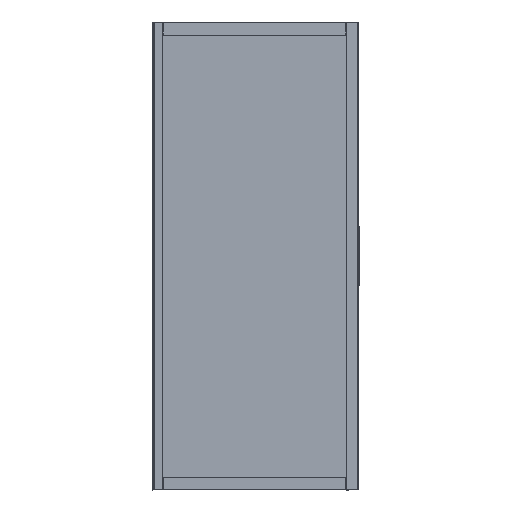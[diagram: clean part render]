
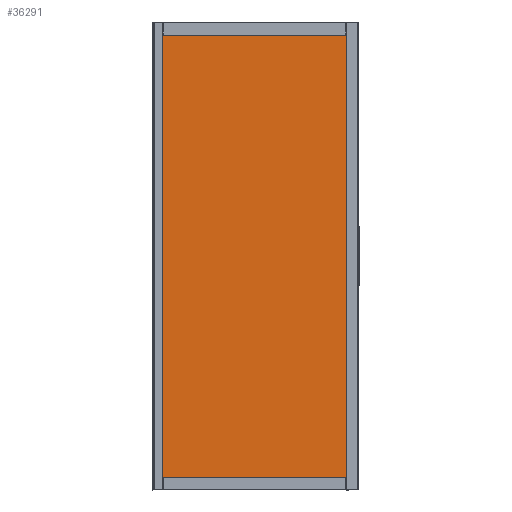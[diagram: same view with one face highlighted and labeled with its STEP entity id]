
A CAD part, front view. The second image highlights one B-rep face of the part: STEP entity #36291.
In plain terms, the highlighted planar face has unit normal (0, -1, 0).
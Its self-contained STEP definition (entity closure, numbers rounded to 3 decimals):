
#1799=LINE($,#54927,#5004);
#2004=LINE($,#55556,#5209);
#2010=LINE($,#55573,#5215);
#2037=LINE($,#55640,#5242);
#2054=LINE($,#55676,#5259);
#2056=LINE($,#55680,#5261);
#2097=LINE($,#55765,#5302);
#2397=LINE($,#56730,#5602);
#2403=LINE($,#56747,#5608);
#2433=LINE($,#56818,#5638);
#2444=LINE($,#56844,#5649);
#2448=LINE($,#56852,#5653);
#2452=LINE($,#56859,#5657);
#2461=LINE($,#56874,#5666);
#2462=LINE($,#56877,#5667);
#2465=LINE($,#56882,#5670);
#2466=LINE($,#56884,#5671);
#2467=LINE($,#56885,#5672);
#2468=LINE($,#56887,#5673);
#2469=LINE($,#56888,#5674);
#2470=LINE($,#56889,#5675);
#5004=VECTOR($,#44122,1908.);
#5209=VECTOR($,#44595,780.);
#5215=VECTOR($,#44609,0.446);
#5242=VECTOR($,#44670,780.);
#5259=VECTOR($,#44709,0.446);
#5261=VECTOR($,#44711,7.);
#5302=VECTOR($,#44784,1907.);
#5602=VECTOR($,#45678,780.);
#5608=VECTOR($,#45692,0.446);
#5638=VECTOR($,#45756,780.);
#5649=VECTOR($,#45785,784.);
#5653=VECTOR($,#45791,7.85);
#5657=VECTOR($,#45797,8.15);
#5666=VECTOR($,#45810,8.15);
#5667=VECTOR($,#45813,1.);
#5670=VECTOR($,#45818,7.85);
#5671=VECTOR($,#45821,0.446);
#5672=VECTOR($,#45822,7.);
#5673=VECTOR($,#45823,784.);
#5674=VECTOR($,#45824,7.);
#5675=VECTOR($,#45825,7.);
#7638=PLANE($,#38970);
#8903=FACE_BOUND($,#11945,.T.);
#8904=FACE_BOUND($,#11946,.T.);
#8905=FACE_BOUND($,#11947,.T.);
#11945=EDGE_LOOP($,(#27803,#27804,#27805,#27806));
#11946=EDGE_LOOP($,(#27807,#27808,#27809,#27810));
#11947=EDGE_LOOP($,(#27811,#27812,#27813,#27814,#27815,#27816,#27817,#27818,
#27819,#27820,#27821,#27822,#27823));
#15861=VERTEX_POINT($,#54925);
#15862=VERTEX_POINT($,#54926);
#16065=VERTEX_POINT($,#55554);
#16066=VERTEX_POINT($,#55555);
#16073=VERTEX_POINT($,#55572);
#16096=VERTEX_POINT($,#55639);
#16105=VERTEX_POINT($,#55677);
#16106=VERTEX_POINT($,#55679);
#16133=VERTEX_POINT($,#55763);
#16134=VERTEX_POINT($,#55764);
#16415=VERTEX_POINT($,#56728);
#16416=VERTEX_POINT($,#56729);
#16423=VERTEX_POINT($,#56746);
#16447=VERTEX_POINT($,#56817);
#16452=VERTEX_POINT($,#56841);
#16453=VERTEX_POINT($,#56843);
#16455=VERTEX_POINT($,#56849);
#16458=VERTEX_POINT($,#56856);
#16463=VERTEX_POINT($,#56876);
#16464=VERTEX_POINT($,#56880);
#16465=VERTEX_POINT($,#56886);
#19696=EDGE_CURVE($,#15861,#15862,#1799,.T.);
#19969=EDGE_CURVE($,#16065,#16066,#2004,.T.);
#19977=EDGE_CURVE($,#16066,#16073,#2010,.T.);
#20011=EDGE_CURVE($,#16073,#16096,#2037,.T.);
#20031=EDGE_CURVE($,#16096,#16065,#2054,.T.);
#20033=EDGE_CURVE($,#16105,#16106,#2056,.T.);
#20077=EDGE_CURVE($,#16133,#16134,#2097,.T.);
#20529=EDGE_CURVE($,#16415,#16416,#2397,.T.);
#20537=EDGE_CURVE($,#16423,#16415,#2403,.T.);
#20574=EDGE_CURVE($,#16447,#16423,#2433,.T.);
#20587=EDGE_CURVE($,#16452,#16453,#2444,.T.);
#20591=EDGE_CURVE($,#16134,#16455,#2448,.T.);
#20595=EDGE_CURVE($,#16458,#15861,#2452,.T.);
#20604=EDGE_CURVE($,#15862,#16106,#2461,.T.);
#20605=EDGE_CURVE($,#16463,#16133,#2462,.T.);
#20608=EDGE_CURVE($,#16464,#16463,#2465,.T.);
#20609=EDGE_CURVE($,#16416,#16447,#2466,.T.);
#20610=EDGE_CURVE($,#16458,#16452,#2467,.T.);
#20611=EDGE_CURVE($,#16465,#16105,#2468,.T.);
#20612=EDGE_CURVE($,#16464,#16465,#2469,.T.);
#20613=EDGE_CURVE($,#16453,#16455,#2470,.T.);
#27803=ORIENTED_EDGE($,*,*,#19969,.T.);
#27804=ORIENTED_EDGE($,*,*,#19977,.T.);
#27805=ORIENTED_EDGE($,*,*,#20011,.T.);
#27806=ORIENTED_EDGE($,*,*,#20031,.T.);
#27807=ORIENTED_EDGE($,*,*,#20529,.T.);
#27808=ORIENTED_EDGE($,*,*,#20609,.T.);
#27809=ORIENTED_EDGE($,*,*,#20574,.T.);
#27810=ORIENTED_EDGE($,*,*,#20537,.T.);
#27811=ORIENTED_EDGE($,*,*,#20610,.F.);
#27812=ORIENTED_EDGE($,*,*,#20595,.T.);
#27813=ORIENTED_EDGE($,*,*,#19696,.T.);
#27814=ORIENTED_EDGE($,*,*,#20604,.T.);
#27815=ORIENTED_EDGE($,*,*,#20033,.F.);
#27816=ORIENTED_EDGE($,*,*,#20611,.F.);
#27817=ORIENTED_EDGE($,*,*,#20612,.F.);
#27818=ORIENTED_EDGE($,*,*,#20608,.T.);
#27819=ORIENTED_EDGE($,*,*,#20605,.T.);
#27820=ORIENTED_EDGE($,*,*,#20077,.T.);
#27821=ORIENTED_EDGE($,*,*,#20591,.T.);
#27822=ORIENTED_EDGE($,*,*,#20613,.F.);
#27823=ORIENTED_EDGE($,*,*,#20587,.F.);
#36291=ADVANCED_FACE($,(#8903,#8904,#8905),#7638,.T.);
#38970=AXIS2_PLACEMENT_3D($,#56883,#45819,#45820);
#44122=DIRECTION($,(0.,0.,-1.));
#44595=DIRECTION($,(1.,0.,0.));
#44609=DIRECTION($,(0.,0.,-1.));
#44670=DIRECTION($,(-1.,0.,0.));
#44709=DIRECTION($,(0.,0.,1.));
#44711=DIRECTION($,(0.,0.,-1.));
#44784=DIRECTION($,(0.,0.,1.));
#45678=DIRECTION($,(-1.,0.,0.));
#45692=DIRECTION($,(0.,0.,-1.));
#45756=DIRECTION($,(1.,0.,0.));
#45785=DIRECTION($,(1.,0.,0.));
#45791=DIRECTION($,(-1.,0.,0.));
#45797=DIRECTION($,(-1.,0.,0.));
#45810=DIRECTION($,(1.,0.,0.));
#45813=DIRECTION($,(0.,0.,1.));
#45818=DIRECTION($,(1.,0.,0.));
#45819=DIRECTION('center_axis',(0.,-1.,0.));
#45820=DIRECTION('ref_axis',(1.,0.,0.));
#45821=DIRECTION($,(0.,0.,1.));
#45822=DIRECTION($,(0.,0.,-1.));
#45823=DIRECTION($,(-1.,0.,0.));
#45824=DIRECTION($,(0.,0.,1.));
#45825=DIRECTION($,(0.,0.,1.));
#54925=CARTESIAN_POINT('',(-130.946,-998.159,2908.14));
#54926=CARTESIAN_POINT('',(-130.946,-998.159,1000.14));
#54927=CARTESIAN_POINT($,(-130.946,-998.159,2908.14));
#55554=CARTESIAN_POINT('',(-122.796,-998.159,1008.713));
#55555=CARTESIAN_POINT('',(657.204,-998.159,1008.713));
#55556=CARTESIAN_POINT($,(-122.796,-998.159,1008.713));
#55572=CARTESIAN_POINT('',(657.204,-998.159,1008.266));
#55573=CARTESIAN_POINT($,(657.204,-998.159,1717.023));
#55639=CARTESIAN_POINT('',(-122.796,-998.159,1008.266));
#55640=CARTESIAN_POINT($,(-122.796,-998.159,1008.266));
#55676=CARTESIAN_POINT($,(-122.796,-998.159,1717.023));
#55677=CARTESIAN_POINT('',(-122.796,-998.159,1007.14));
#55679=CARTESIAN_POINT('',(-122.796,-998.159,1000.14));
#55680=CARTESIAN_POINT($,(-122.796,-998.159,1706.465));
#55763=CARTESIAN_POINT('',(669.054,-998.159,1001.14));
#55764=CARTESIAN_POINT('',(669.054,-998.159,2908.14));
#55765=CARTESIAN_POINT($,(669.054,-998.159,1000.14));
#56728=CARTESIAN_POINT('',(657.204,-998.159,2899.567));
#56729=CARTESIAN_POINT('',(-122.796,-998.159,2899.567));
#56730=CARTESIAN_POINT($,(657.204,-998.159,2899.567));
#56746=CARTESIAN_POINT('',(657.204,-998.159,2900.013));
#56747=CARTESIAN_POINT($,(657.204,-998.159,2668.256));
#56817=CARTESIAN_POINT('',(-122.796,-998.159,2900.013));
#56818=CARTESIAN_POINT($,(657.204,-998.159,2900.013));
#56841=CARTESIAN_POINT('',(-122.796,-998.159,2901.14));
#56843=CARTESIAN_POINT('',(661.204,-998.159,2901.14));
#56844=CARTESIAN_POINT($,(-26.871,-998.159,2901.14));
#56849=CARTESIAN_POINT('',(661.204,-998.159,2908.14));
#56852=CARTESIAN_POINT($,(669.054,-998.159,2908.14));
#56856=CARTESIAN_POINT('',(-122.796,-998.159,2908.14));
#56859=CARTESIAN_POINT($,(669.054,-998.159,2908.14));
#56874=CARTESIAN_POINT($,(-130.946,-998.159,1000.14));
#56876=CARTESIAN_POINT('',(669.054,-998.159,1000.14));
#56877=CARTESIAN_POINT($,(669.054,-998.159,1000.14));
#56880=CARTESIAN_POINT('',(661.204,-998.159,1000.14));
#56882=CARTESIAN_POINT($,(-130.946,-998.159,1000.14));
#56883=CARTESIAN_POINT('Origin',(69.054,-998.159,2431.14));
#56884=CARTESIAN_POINT($,(-122.796,-998.159,2668.256));
#56885=CARTESIAN_POINT($,(-122.796,-998.159,2678.815));
#56886=CARTESIAN_POINT('',(661.204,-998.159,1007.14));
#56887=CARTESIAN_POINT($,(365.129,-998.159,1007.14));
#56888=CARTESIAN_POINT($,(661.204,-998.159,1706.465));
#56889=CARTESIAN_POINT($,(661.204,-998.159,2678.815));
